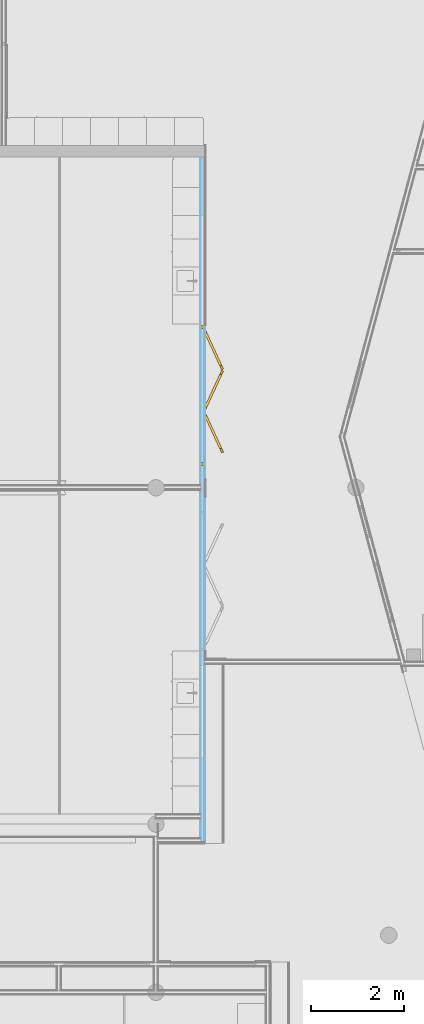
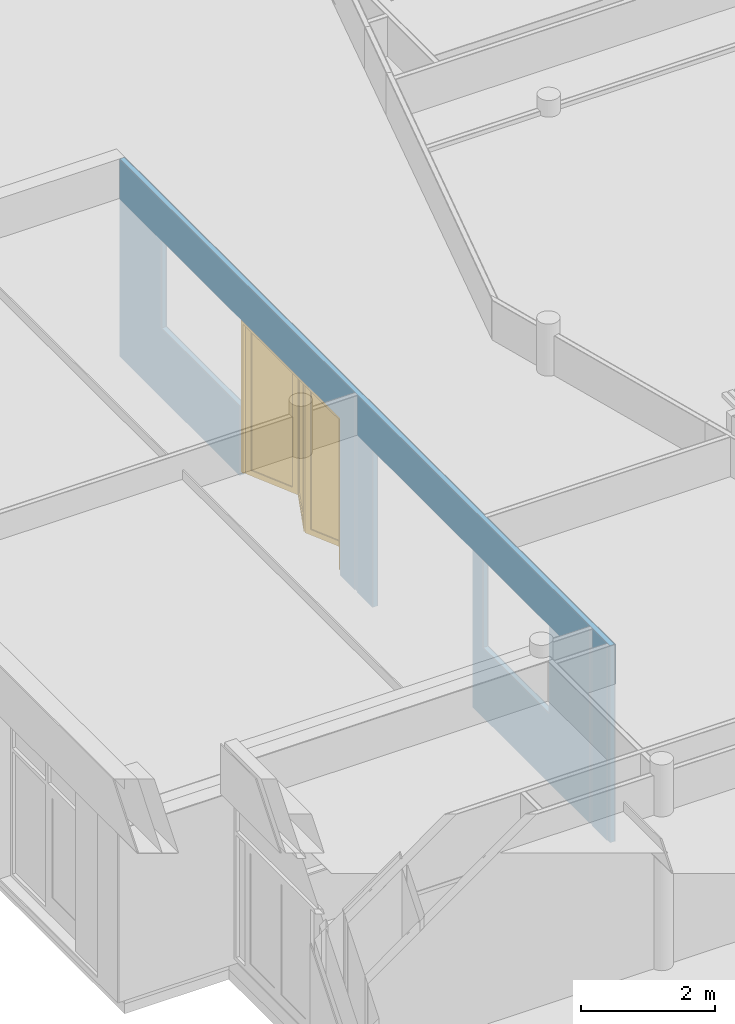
# One storey, part 29 of 167: 1 door, 4 openings, 1 element without a shape of its own, plus 3 elements that do not belong to this part.
"""IFC2X3 building model written with IfcOpenShell, lengths in millimetres."""

from ifc_helpers import new_model, entity, si_unit, converted_unit, derived_unit, money_unit, direction, frame, origin_with_axes, place, context, subcontext, project, spatial, open_shell, faceted_brep, surface_model, source, transform, mapped, material, type_object, type_shapes, element, fill, aggregate, save


model = new_model("IFC2X3")

# Units and contexts
model_context = context("Model", 3, precision=0.01, world=origin_with_axes(), true_north=direction((0.0, 1.0)))
plan_context = context("Plan", 3, precision=0.01, world=origin_with_axes(), true_north=direction((0.0, 1.0)))
body_context = subcontext(model_context, "Body", "Model", "MODEL_VIEW")
ifc_project = project(units=[si_unit("LENGTHUNIT", "METRE", prefix="MILLI"), si_unit("AREAUNIT", "SQUARE_METRE"), si_unit("VOLUMEUNIT", "CUBIC_METRE"), converted_unit("PLANEANGLEUNIT", "DEGREE", entity("IfcPlaneAngleMeasure", 0.0174532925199), si_unit("PLANEANGLEUNIT", "RADIAN"), dimensions=[0, 0, 0, 0, 0, 0, 0]), si_unit("SOLIDANGLEUNIT", "STERADIAN"), money_unit("EUR"), converted_unit("TIMEUNIT", "Year", entity("IfcTimeMeasure", 31556926.0), si_unit("TIMEUNIT", "SECOND"), dimensions=[0, 0, 1, 0, 0, 0, 0]), si_unit("MASSUNIT", "GRAM", prefix="KILO"), si_unit("THERMODYNAMICTEMPERATUREUNIT", "DEGREE_CELSIUS"), si_unit("LUMINOUSINTENSITYUNIT", "LUMEN"), si_unit("ENERGYUNIT", "JOULE", prefix="MEGA"), derived_unit("THERMALCONDUCTANCEUNIT", [(si_unit("POWERUNIT", "WATT"), 1), (si_unit("LENGTHUNIT", "METRE"), -1), (si_unit("THERMODYNAMICTEMPERATUREUNIT", "KELVIN"), -1)]), derived_unit("SPECIFICHEATCAPACITYUNIT", [(si_unit("ENERGYUNIT", "JOULE"), 1), (si_unit("MASSUNIT", "GRAM", prefix="KILO"), -1), (si_unit("THERMODYNAMICTEMPERATUREUNIT", "KELVIN"), -1)]), derived_unit("MASSDENSITYUNIT", [(si_unit("MASSUNIT", "GRAM", prefix="KILO"), 1), (si_unit("VOLUMEUNIT", "CUBIC_METRE"), -1)])], contexts=[model_context, plan_context])

# Site, building, storey
site_placement = place(None, origin_with_axes())
site = spatial("IfcSite", under=ifc_project, at=site_placement, Name="Site", CompositionType="ELEMENT")
building_placement = place(site_placement, origin_with_axes())
building = spatial("IfcBuilding", under=site, at=building_placement, Name="Naam gebouw", CompositionType="ELEMENT")
storey_placement = place(building_placement, origin_with_axes())
storey = spatial("IfcBuildingStorey", under=building, at=storey_placement, Name="Begane grond", CompositionType="ELEMENT", Elevation=0.0)

# Door
door_style = type_object("IfcDoorStyle", Name="DV1 24", ConstructionType="NOTDEFINED", OperationType="FOLDING_TO_RIGHT", ParameterTakesPrecedence=False, Sizeable=False)
shared_shape = source(origin_with_axes(), body_context, "Body", "SurfaceModel", [
    faceted_brep([(-1500.0, 0.0, 0.0), (-1433.0, 0.0, 0.0), (-1433.0, -80.0, 0.0), (-1500.0, -80.0, 0.0), (-1500.0, 0.0, 2733.0), (-1433.0, 0.0, 2733.0), (-1433.0, -80.0, 2733.0), (-1500.0, -80.0, 2733.0)], [[[0, 1, 2, 3]], [[0, 4, 5, 1]], [[1, 5, 6, 2]], [[3, 2, 6, 7]], [[4, 0, 3, 7]], [[5, 4, 7, 6]]]),
    faceted_brep([(1500.0, 0.0, 0.0), (1500.0, 0.0, 2733.0), (1500.0, -80.0, 2733.0), (1500.0, -80.0, 0.0), (1433.0, 0.0, 0.0), (1433.0, 0.0, 2733.0), (1433.0, -80.0, 2733.0), (1433.0, -80.0, 0.0)], [[[0, 1, 2, 3]], [[0, 4, 5, 1]], [[1, 5, 6, 2]], [[3, 2, 6, 7]], [[4, 0, 3, 7]], [[5, 4, 7, 6]]]),
    faceted_brep([(-1500.0, 0.0, 2800.0), (-1500.0, 0.0, 2733.0), (-1500.0, -80.0, 2733.0), (-1500.0, -80.0, 2800.0), (1500.0, 0.0, 2800.0), (1500.0, 0.0, 2733.0), (1433.0, 0.0, 2733.0), (-1433.0, 0.0, 2733.0), (-1433.0, -80.0, 2733.0), (1433.0, -80.0, 2733.0), (1500.0, -80.0, 2733.0), (1500.0, -80.0, 2800.0)], [[[0, 1, 2, 3]], [[0, 4, 5, 6, 7, 1]], [[1, 7, 8, 2]], [[3, 2, 8, 9, 10, 11]], [[4, 0, 3, 11]], [[5, 4, 11, 10]], [[6, 5, 10, 9]], [[7, 6, 9, 8]]]),
    faceted_brep([(-1433.0, 0.0, 100.0), (-1342.1674691, 41.8264429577, 100.0), (-1321.25424762, -3.58982249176, 100.0), (-1412.08677852, -45.4162654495, 100.0), (-1433.0, 0.0, 2633.0), (-1342.1674691, 41.8264429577, 2633.0), (-1321.25424762, -3.58982249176, 2633.0), (-1412.08677852, -45.4162654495, 2633.0)], [[[0, 1, 2, 3]], [[0, 4, 5, 1]], [[1, 5, 6, 2]], [[3, 2, 6, 7]], [[4, 0, 3, 7]], [[5, 4, 7, 6]]]),
    faceted_brep([(-565.246554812, 399.581951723, 100.0), (-565.246554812, 399.581951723, 2633.0), (-544.333333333, 354.165686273, 2633.0), (-544.333333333, 354.165686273, 100.0), (-656.079085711, 357.755508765, 100.0), (-656.079085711, 357.755508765, 2633.0), (-635.165864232, 312.339243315, 2633.0), (-635.165864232, 312.339243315, 100.0)], [[[0, 1, 2, 3]], [[0, 4, 5, 1]], [[1, 5, 6, 2]], [[3, 2, 6, 7]], [[4, 0, 3, 7]], [[5, 4, 7, 6]]]),
    faceted_brep([(-1433.0, 0.0, 0.0), (-565.246554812, 399.581951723, 0.0), (-544.333333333, 354.165686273, 0.0), (-1412.08677852, -45.4162654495, 0.0), (-1433.0, 0.0, 100.0), (-1342.1674691, 41.8264429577, 100.0), (-656.079085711, 357.755508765, 100.0), (-565.246554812, 399.581951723, 100.0), (-544.333333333, 354.165686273, 100.0), (-635.165864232, 312.339243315, 100.0), (-1321.25424762, -3.58982249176, 100.0), (-1412.08677852, -45.4162654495, 100.0)], [[[0, 1, 2, 3]], [[0, 4, 5, 6, 7, 1]], [[1, 7, 8, 2]], [[3, 2, 8, 9, 10, 11]], [[4, 0, 3, 11]], [[5, 4, 11, 10]], [[6, 5, 10, 9]], [[7, 6, 9, 8]]]),
    faceted_brep([(-1433.0, 0.0, 2733.0), (-1433.0, 0.0, 2633.0), (-1412.08677852, -45.4162654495, 2633.0), (-1412.08677852, -45.4162654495, 2733.0), (-565.246554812, 399.581951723, 2733.0), (-565.246554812, 399.581951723, 2633.0), (-656.079085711, 357.755508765, 2633.0), (-1342.1674691, 41.8264429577, 2633.0), (-1321.25424762, -3.58982249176, 2633.0), (-635.165864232, 312.339243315, 2633.0), (-544.333333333, 354.165686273, 2633.0), (-544.333333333, 354.165686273, 2733.0)], [[[0, 1, 2, 3]], [[0, 4, 5, 6, 7, 1]], [[1, 7, 8, 2]], [[3, 2, 8, 9, 10, 11]], [[4, 0, 3, 11]], [[5, 4, 11, 10]], [[6, 5, 10, 9]], [[7, 6, 9, 8]]]),
    surface_model("IfcShellBasedSurfaceModel", [(-648.132061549, 340.497327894, 100.0), (-1334.22044494, 24.5682620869, 100.0), (-1334.22044494, 24.5682620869, 2633.0), (-648.132061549, 340.497327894, 2633.0)], [open_shell([[[0, 1, 2, 3]]])]),
    surface_model("IfcShellBasedSurfaceModel", [(-643.112888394, 329.597424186, 100.0), (-643.112888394, 329.597424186, 2633.0), (-1329.20127178, 13.668358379, 2633.0), (-1329.20127178, 13.668358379, 100.0)], [open_shell([[[0, 1, 2, 3]]])]),
    faceted_brep([(-523.420111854, 399.581951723, 100.0), (-432.587580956, 357.755508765, 100.0), (-453.500802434, 312.339243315, 100.0), (-544.333333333, 354.165686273, 100.0), (-523.420111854, 399.581951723, 2633.0), (-432.587580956, 357.755508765, 2633.0), (-453.500802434, 312.339243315, 2633.0), (-544.333333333, 354.165686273, 2633.0)], [[[0, 1, 2, 3]], [[0, 4, 5, 1]], [[1, 5, 6, 2]], [[3, 2, 6, 7]], [[4, 0, 3, 7]], [[5, 4, 7, 6]]]),
    faceted_brep([(344.333333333, 0.0, 100.0), (344.333333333, 0.0, 2633.0), (323.420111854, -45.4162654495, 2633.0), (323.420111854, -45.4162654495, 100.0), (253.500802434, 41.8264429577, 100.0), (253.500802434, 41.8264429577, 2633.0), (232.587580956, -3.58982249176, 2633.0), (232.587580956, -3.58982249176, 100.0)], [[[0, 1, 2, 3]], [[0, 4, 5, 1]], [[1, 5, 6, 2]], [[3, 2, 6, 7]], [[4, 0, 3, 7]], [[5, 4, 7, 6]]]),
    faceted_brep([(-523.420111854, 399.581951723, 0.0), (344.333333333, 0.0, 0.0), (323.420111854, -45.4162654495, 0.0), (-544.333333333, 354.165686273, 0.0), (-523.420111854, 399.581951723, 100.0), (-432.587580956, 357.755508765, 100.0), (253.500802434, 41.8264429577, 100.0), (344.333333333, 0.0, 100.0), (323.420111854, -45.4162654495, 100.0), (232.587580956, -3.58982249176, 100.0), (-453.500802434, 312.339243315, 100.0), (-544.333333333, 354.165686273, 100.0)], [[[0, 1, 2, 3]], [[0, 4, 5, 6, 7, 1]], [[1, 7, 8, 2]], [[3, 2, 8, 9, 10, 11]], [[4, 0, 3, 11]], [[5, 4, 11, 10]], [[6, 5, 10, 9]], [[7, 6, 9, 8]]]),
    faceted_brep([(-523.420111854, 399.581951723, 2733.0), (-523.420111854, 399.581951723, 2633.0), (-544.333333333, 354.165686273, 2633.0), (-544.333333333, 354.165686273, 2733.0), (344.333333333, 0.0, 2733.0), (344.333333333, 0.0, 2633.0), (253.500802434, 41.8264429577, 2633.0), (-432.587580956, 357.755508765, 2633.0), (-453.500802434, 312.339243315, 2633.0), (232.587580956, -3.58982249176, 2633.0), (323.420111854, -45.4162654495, 2633.0), (323.420111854, -45.4162654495, 2733.0)], [[[0, 1, 2, 3]], [[0, 4, 5, 6, 7, 1]], [[1, 7, 8, 2]], [[3, 2, 8, 9, 10, 11]], [[4, 0, 3, 11]], [[5, 4, 11, 10]], [[6, 5, 10, 9]], [[7, 6, 9, 8]]]),
    surface_model("IfcShellBasedSurfaceModel", [(245.553778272, 24.5682620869, 100.0), (-440.534605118, 340.497327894, 100.0), (-440.534605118, 340.497327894, 2633.0), (245.553778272, 24.5682620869, 2633.0)], [open_shell([[[0, 1, 2, 3]]])]),
    surface_model("IfcShellBasedSurfaceModel", [(240.534605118, 13.668358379, 100.0), (240.534605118, 13.668358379, 2633.0), (-445.553778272, 329.597424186, 2633.0), (-445.553778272, 329.597424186, 100.0)], [open_shell([[[0, 1, 2, 3]]])]),
    faceted_brep([(344.333333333, 0.0, 100.0), (435.165864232, 41.8264429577, 100.0), (456.079085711, -3.58982249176, 100.0), (365.246554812, -45.4162654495, 100.0), (344.333333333, 0.0, 2633.0), (435.165864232, 41.8264429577, 2633.0), (456.079085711, -3.58982249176, 2633.0), (365.246554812, -45.4162654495, 2633.0)], [[[0, 1, 2, 3]], [[0, 4, 5, 1]], [[1, 5, 6, 2]], [[3, 2, 6, 7]], [[4, 0, 3, 7]], [[5, 4, 7, 6]]]),
    faceted_brep([(1212.08677852, 399.581951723, 100.0), (1212.08677852, 399.581951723, 2633.0), (1233.0, 354.165686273, 2633.0), (1233.0, 354.165686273, 100.0), (1121.25424762, 357.755508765, 100.0), (1121.25424762, 357.755508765, 2633.0), (1142.1674691, 312.339243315, 2633.0), (1142.1674691, 312.339243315, 100.0)], [[[0, 1, 2, 3]], [[0, 4, 5, 1]], [[1, 5, 6, 2]], [[3, 2, 6, 7]], [[4, 0, 3, 7]], [[5, 4, 7, 6]]]),
    faceted_brep([(344.333333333, 0.0, 0.0), (1212.08677852, 399.581951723, 0.0), (1233.0, 354.165686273, 0.0), (365.246554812, -45.4162654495, 0.0), (344.333333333, 0.0, 100.0), (435.165864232, 41.8264429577, 100.0), (1121.25424762, 357.755508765, 100.0), (1212.08677852, 399.581951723, 100.0), (1233.0, 354.165686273, 100.0), (1142.1674691, 312.339243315, 100.0), (456.079085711, -3.58982249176, 100.0), (365.246554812, -45.4162654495, 100.0)], [[[0, 1, 2, 3]], [[0, 4, 5, 6, 7, 1]], [[1, 7, 8, 2]], [[3, 2, 8, 9, 10, 11]], [[4, 0, 3, 11]], [[5, 4, 11, 10]], [[6, 5, 10, 9]], [[7, 6, 9, 8]]]),
    faceted_brep([(344.333333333, 0.0, 2733.0), (344.333333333, 0.0, 2633.0), (365.246554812, -45.4162654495, 2633.0), (365.246554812, -45.4162654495, 2733.0), (1212.08677852, 399.581951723, 2733.0), (1212.08677852, 399.581951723, 2633.0), (1121.25424762, 357.755508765, 2633.0), (435.165864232, 41.8264429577, 2633.0), (456.079085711, -3.58982249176, 2633.0), (1142.1674691, 312.339243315, 2633.0), (1233.0, 354.165686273, 2633.0), (1233.0, 354.165686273, 2733.0)], [[[0, 1, 2, 3]], [[0, 4, 5, 6, 7, 1]], [[1, 7, 8, 2]], [[3, 2, 8, 9, 10, 11]], [[4, 0, 3, 11]], [[5, 4, 11, 10]], [[6, 5, 10, 9]], [[7, 6, 9, 8]]]),
    surface_model("IfcShellBasedSurfaceModel", [(1129.20127178, 340.497327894, 100.0), (443.112888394, 24.5682620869, 100.0), (443.112888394, 24.5682620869, 2633.0), (1129.20127178, 340.497327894, 2633.0)], [open_shell([[[0, 1, 2, 3]]])]),
    surface_model("IfcShellBasedSurfaceModel", [(1134.22044494, 329.597424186, 100.0), (1134.22044494, 329.597424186, 2633.0), (448.132061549, 13.668358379, 2633.0), (448.132061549, 13.668358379, 100.0)], [open_shell([[[0, 1, 2, 3]]])]),
])
type_shapes(door_style, [shared_shape])
wall_placement = place(storey_placement, frame((8200.0, 21250.0, -100.0), z_axis=(0.0, 0.0, 1.0), x_axis=(0.0, 1.0, 0.0)))
opening_4_placement = place(wall_placement, frame((9525.0, 0.0, 100.0), z_axis=(0.0, 0.0, 1.0), x_axis=(1.0, 0.0, 0.0)))
door_placement = place(opening_4_placement, frame((1500.0, 0.0, 0.0), z_axis=(0.0, 0.0, 1.0), x_axis=(-1.0, 0.0, 0.0)))
door = element("IfcDoor", 1, at=door_placement, inside=storey, type_object=door_style, Name="32_Deur_Si-02s", ObjectType="DOOR", OverallHeight=2800.0, OverallWidth=3000.0, context=body_context, shape_type="MappedRepresentation", body=[
    mapped(shared_shape, transform((1500.0, 50.0, 0.0))),
])

# Wall, openings
wall_type = type_object("IfcWallType", Name="_TenW_22_Metalstud 100 enkel gipsvezelplaat 100", PredefinedType="NOTDEFINED")
wall = element("IfcWall", 2, at=wall_placement, inside=storey, type_object=wall_type, Name="22_Wand_Wand-x")
opening_1_placement = place(wall_placement, frame((12200.0, 0.0, 1300.0), z_axis=(0.0, 0.0, 1.0), x_axis=(1.0, 0.0, 0.0)))
element("IfcOpeningElement", 3, at=opening_1_placement, cuts=wall, Name="31_Raam_Hi-53", context=body_context, shape_type="Brep", body=[
    faceted_brep([(-1175.0, 100.0, 1600.0), (-1175.0, 100.0, 0.0), (-1175.0, -200.0, 0.0), (-1175.0, -200.0, 1600.0), (1175.0, 100.0, 1600.0), (1175.0, 100.0, 0.0), (1175.0, -200.0, 0.0), (1175.0, -200.0, 1600.0)], [[[0, 1, 2, 3]], [[0, 4, 5, 1]], [[1, 5, 6, 2]], [[3, 2, 6, 7]], [[4, 0, 3, 7]], [[5, 4, 7, 6]]]),
])
opening_2_placement = place(wall_placement, frame((2758.59620361, 0.0, 1300.0), z_axis=(0.0, 0.0, 1.0), x_axis=(1.0, 0.0, 0.0)))
element("IfcOpeningElement", 4, at=opening_2_placement, cuts=wall, Name="31_Raam_Hi-40", context=body_context, shape_type="Brep", body=[
    faceted_brep([(-994.596203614, 100.0, 1600.0), (-994.596203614, 100.0, 0.0), (-994.596203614, -200.0, 0.0), (-994.596203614, -200.0, 1600.0), (994.596203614, 100.0, 1600.0), (994.596203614, 100.0, 0.0), (994.596203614, -200.0, 0.0), (994.596203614, -200.0, 1600.0)], [[[0, 1, 2, 3]], [[0, 4, 5, 1]], [[1, 5, 6, 2]], [[3, 2, 6, 7]], [[4, 0, 3, 7]], [[5, 4, 7, 6]]]),
])
opening_3_placement = place(wall_placement, frame((5554.0, 0.0, 100.0), z_axis=(0.0, 0.0, 1.0), x_axis=(1.0, 0.0, 0.0)))
element("IfcOpeningElement", 5, at=opening_3_placement, cuts=wall, Name="32_Deur_Si-02", context=body_context, shape_type="Brep", body=[
    faceted_brep([(1500.0, -200.0, 2800.0), (1500.0, -200.0, 0.0), (1500.0, 100.0, 0.0), (1500.0, 100.0, 2800.0), (-1500.0, -200.0, 2800.0), (-1500.0, -200.0, 0.0), (-1500.0, 100.0, 0.0), (-1500.0, 100.0, 2800.0)], [[[0, 1, 2, 3]], [[0, 4, 5, 1]], [[1, 5, 6, 2]], [[3, 2, 6, 7]], [[4, 0, 3, 7]], [[5, 4, 7, 6]]]),
])
opening_4 = element("IfcOpeningElement", 6, at=opening_4_placement, cuts=wall, Name="32_Deur_Si-02s", context=body_context, shape_type="Brep", body=[
    faceted_brep([(-1500.0, 100.0, 2800.0), (-1500.0, 100.0, 0.0), (-1500.0, -200.0, 0.0), (-1500.0, -200.0, 2800.0), (1500.0, 100.0, 2800.0), (1500.0, 100.0, 0.0), (1500.0, -200.0, 0.0), (1500.0, -200.0, 2800.0)], [[[0, 1, 2, 3]], [[0, 4, 5, 1]], [[1, 5, 6, 2]], [[3, 2, 6, 7]], [[4, 0, 3, 7]], [[5, 4, 7, 6]]]),
])

fill(opening_4, door)

# Building element part
ifc_material_1 = material(Name="Gipsplaat watervast")
building_element_part_1_placement = place(wall_placement, origin_with_axes())
building_element_part_1 = element("IfcBuildingElementPart", 7, at=building_element_part_1_placement, material=ifc_material_1, Name="Gipsplaat watervast", context=body_context, shape_type="Brep", body=[
    faceted_brep([(37.5, 37.5, 30.0), (476.5, 37.5, 30.0), (476.5, 37.5, 3630.0), (37.5, 37.5, 3630.0), (476.5, 50.0, 30.0), (37.5, 50.0, 30.0), (476.5, 50.0, 3630.0), (37.5, 50.0, 3630.0)], [[[0, 1, 2, 3]], [[4, 1, 0, 5]], [[1, 4, 6, 2]], [[2, 6, 7, 3]], [[5, 0, 3, 7]], [[4, 5, 7, 6]]]),
    faceted_brep([(11025.0, 50.0, 1300.0), (11025.0, 37.5, 1300.0), (13375.0, 37.5, 1300.0), (13375.0, 50.0, 1300.0), (11025.0, 37.5, 100.0), (11025.0, 50.0, 100.0), (8025.0, 37.5, 100.0), (8025.0, 37.5, 2900.0), (11025.0, 37.5, 2900.0), (13375.0, 37.5, 2900.0), (11025.0, 37.5, 30.0), (14625.0, 37.5, 30.0), (14625.0, 37.5, 3630.0), (7587.5, 37.5, 3630.0), (7587.5, 37.5, 30.0), (8025.0, 37.5, 30.0), (13375.0, 50.0, 2900.0), (8025.0, 50.0, 2900.0), (8025.0, 50.0, 100.0), (8025.0, 50.0, 30.0), (7587.5, 50.0, 30.0), (7587.5, 50.0, 3630.0), (14625.0, 50.0, 3630.0), (14625.0, 50.0, 30.0), (11025.0, 50.0, 30.0), (11025.0, 50.0, 2900.0)], [[[0, 1, 2, 3]], [[4, 1, 0, 5]], [[6, 7, 8, 9, 2, 1, 4, 10, 11, 12, 13, 14, 15]], [[9, 16, 3, 2]], [[17, 18, 19, 20, 21, 22, 23, 24, 5, 0, 3, 16, 25]], [[4, 5, 24, 10]], [[7, 6, 18, 17]], [[8, 7, 17, 25, 16, 9]], [[23, 11, 10, 24]], [[22, 12, 11, 23]], [[22, 21, 13, 12]], [[13, 21, 20, 14]], [[14, 20, 19, 15]], [[18, 6, 15, 19]]]),
    faceted_brep([(4054.0, 37.5, 100.0), (4054.0, 37.5, 2900.0), (7054.0, 37.5, 2900.0), (7054.0, 37.5, 100.0), (7054.0, 37.5, 30.0), (7512.5, 37.5, 30.0), (7512.5, 37.5, 3630.0), (551.5, 37.5, 3630.0), (551.5, 37.5, 30.0), (4054.0, 37.5, 30.0), (1764.0, 37.5, 2900.0), (3753.19240723, 37.5, 2900.0), (3753.19240723, 37.5, 1300.0), (1764.0, 37.5, 1300.0), (4054.0, 50.0, 100.0), (4054.0, 50.0, 2900.0), (7054.0, 50.0, 2900.0), (7054.0, 50.0, 100.0), (7054.0, 50.0, 30.0), (7512.5, 50.0, 30.0), (7512.5, 50.0, 3630.0), (551.5, 50.0, 3630.0), (551.5, 50.0, 30.0), (4054.0, 50.0, 30.0), (1764.0, 50.0, 2900.0), (3753.19240723, 50.0, 2900.0), (3753.19240723, 50.0, 1300.0), (1764.0, 50.0, 1300.0)], [[[0, 1, 2, 3, 4, 5, 6, 7, 8, 9], [10, 11, 12, 13]], [[1, 0, 14, 15]], [[2, 1, 15, 16]], [[3, 2, 16, 17]], [[3, 17, 18, 4]], [[19, 5, 4, 18]], [[20, 6, 5, 19]], [[21, 7, 6, 20]], [[7, 21, 22, 8]], [[8, 22, 23, 9]], [[14, 0, 9, 23]], [[10, 24, 25, 11]], [[11, 25, 26, 12]], [[12, 26, 27, 13]], [[13, 27, 24, 10]], [[15, 14, 23, 22, 21, 20, 19, 18, 17, 16], [26, 25, 24, 27]]]),
])

ifc_material_2 = material(Name="Isolatie - Steenwol zacht")
building_element_part_2_placement = place(wall_placement, origin_with_axes())
building_element_part_2 = element("IfcBuildingElementPart", 8, at=building_element_part_2_placement, material=ifc_material_2, Name="Isolatie - Steenwol zacht", context=body_context, shape_type="Brep", body=[
    faceted_brep([(11025.0, 37.5, 1300.0), (11025.0, -37.5, 1300.0), (13375.0, -37.5, 1300.0), (13375.0, 37.5, 1300.0), (11025.0, -37.5, 100.0), (11025.0, 37.5, 100.0), (8025.0, -37.5, 100.0), (8025.0, -37.5, 2900.0), (11025.0, -37.5, 2900.0), (13375.0, -37.5, 2900.0), (11025.0, -37.5, 30.0), (14625.0, -37.5, 30.0), (14625.0, -37.5, 3630.0), (-37.5, -37.5, 3630.0), (-37.5, -37.5, 30.0), (4054.0, -37.5, 30.0), (4054.0, -37.5, 100.0), (4054.0, -37.5, 2900.0), (7054.0, -37.5, 2900.0), (7054.0, -37.5, 100.0), (7054.0, -37.5, 30.0), (8025.0, -37.5, 30.0), (3753.19240723, -37.5, 2900.0), (3753.19240723, -37.5, 1300.0), (1764.0, -37.5, 1300.0), (1764.0, -37.5, 2900.0), (13375.0, 37.5, 2900.0), (8025.0, 37.5, 2900.0), (8025.0, 37.5, 100.0), (8025.0, 37.5, 30.0), (7054.0, 37.5, 30.0), (7054.0, 37.5, 100.0), (7054.0, 37.5, 2900.0), (4054.0, 37.5, 2900.0), (4054.0, 37.5, 100.0), (4054.0, 37.5, 30.0), (-37.5, 37.5, 30.0), (-37.5, 37.5, 3630.0), (14625.0, 37.5, 3630.0), (14625.0, 37.5, 30.0), (11025.0, 37.5, 30.0), (11025.0, 37.5, 2900.0), (3753.19240723, 37.5, 2900.0), (1764.0, 37.5, 2900.0), (1764.0, 37.5, 1300.0), (3753.19240723, 37.5, 1300.0)], [[[0, 1, 2, 3]], [[4, 1, 0, 5]], [[6, 7, 8, 9, 2, 1, 4, 10, 11, 12, 13, 14, 15, 16, 17, 18, 19, 20, 21], [22, 23, 24, 25]], [[3, 2, 9, 26]], [[27, 28, 29, 30, 31, 32, 33, 34, 35, 36, 37, 38, 39, 40, 5, 0, 3, 26, 41], [42, 43, 44, 45]], [[4, 5, 40, 10]], [[7, 6, 28, 27]], [[8, 7, 27, 41, 26, 9]], [[10, 40, 39, 11]], [[11, 39, 38, 12]], [[13, 12, 38, 37]], [[36, 14, 13, 37]], [[35, 15, 14, 36]], [[16, 15, 35, 34]], [[16, 34, 33, 17]], [[17, 33, 32, 18]], [[18, 32, 31, 19]], [[31, 30, 20, 19]], [[29, 21, 20, 30]], [[28, 6, 21, 29]], [[42, 45, 23, 22]], [[45, 44, 24, 23]], [[44, 43, 25, 24]], [[43, 42, 22, 25]]]),
])

building_element_part_3_placement = place(wall_placement, origin_with_axes())
building_element_part_3 = element("IfcBuildingElementPart", 9, at=building_element_part_3_placement, material=ifc_material_1, Name="Gipsplaat watervast", context=body_context, shape_type="Brep", body=[
    faceted_brep([(11025.0, -37.5, 1300.0), (11025.0, -50.0, 1300.0), (13375.0, -50.0, 1300.0), (13375.0, -37.5, 1300.0), (11025.0, -50.0, 100.0), (11025.0, -37.5, 100.0), (8025.0, -50.0, 100.0), (8025.0, -50.0, 2900.0), (11025.0, -50.0, 2900.0), (13375.0, -50.0, 2900.0), (11025.0, -50.0, 30.0), (14625.0, -50.0, 30.0), (14625.0, -50.0, 3630.0), (3859.04575717, -50.0, 3630.0), (3859.04575717, -50.0, 30.0), (4054.0, -50.0, 30.0), (4054.0, -50.0, 100.0), (4054.0, -50.0, 2900.0), (7054.0, -50.0, 2900.0), (7054.0, -50.0, 100.0), (7054.0, -50.0, 30.0), (8025.0, -50.0, 30.0), (13375.0, -37.5, 2900.0), (8025.0, -37.5, 2900.0), (8025.0, -37.5, 100.0), (8025.0, -37.5, 30.0), (7054.0, -37.5, 30.0), (7054.0, -37.5, 100.0), (7054.0, -37.5, 2900.0), (4054.0, -37.5, 2900.0), (4054.0, -37.5, 100.0), (4054.0, -37.5, 30.0), (3859.04575717, -37.5, 30.0), (3859.04575717, -37.5, 3630.0), (14625.0, -37.5, 3630.0), (14625.0, -37.5, 30.0), (11025.0, -37.5, 30.0), (11025.0, -37.5, 2900.0)], [[[0, 1, 2, 3]], [[4, 1, 0, 5]], [[6, 7, 8, 9, 2, 1, 4, 10, 11, 12, 13, 14, 15, 16, 17, 18, 19, 20, 21]], [[22, 3, 2, 9]], [[23, 24, 25, 26, 27, 28, 29, 30, 31, 32, 33, 34, 35, 36, 5, 0, 3, 22, 37]], [[4, 5, 36, 10]], [[7, 6, 24, 23]], [[8, 7, 23, 37, 22, 9]], [[11, 10, 36, 35]], [[12, 11, 35, 34]], [[33, 13, 12, 34]], [[33, 32, 14, 13]], [[32, 31, 15, 14]], [[16, 15, 31, 30]], [[16, 30, 29, 17]], [[17, 29, 28, 18]], [[18, 28, 27, 19]], [[27, 26, 20, 19]], [[26, 25, 21, 20]], [[24, 6, 21, 25]]]),
    faceted_brep([(-50.0, -37.5, 30.0), (-50.0, -37.5, 3630.0), (3784.04575717, -37.5, 3630.0), (3784.04575717, -37.5, 30.0), (1764.0, -37.5, 1300.0), (3753.19240723, -37.5, 1300.0), (3753.19240723, -37.5, 2900.0), (1764.0, -37.5, 2900.0), (-50.0, -50.0, 30.0), (-50.0, -50.0, 3630.0), (3784.04575717, -50.0, 3630.0), (3784.04575717, -50.0, 30.0), (1764.0, -50.0, 1300.0), (3753.19240723, -50.0, 1300.0), (3753.19240723, -50.0, 2900.0), (1764.0, -50.0, 2900.0)], [[[0, 1, 2, 3], [4, 5, 6, 7]], [[8, 9, 1, 0]], [[2, 1, 9, 10]], [[3, 2, 10, 11]], [[11, 8, 0, 3]], [[12, 13, 5, 4]], [[13, 14, 6, 5]], [[14, 15, 7, 6]], [[15, 12, 4, 7]], [[11, 10, 9, 8], [12, 15, 14, 13]]]),
])

aggregate(wall, [building_element_part_1, building_element_part_2, building_element_part_3])

save(model, "model.ifc")
